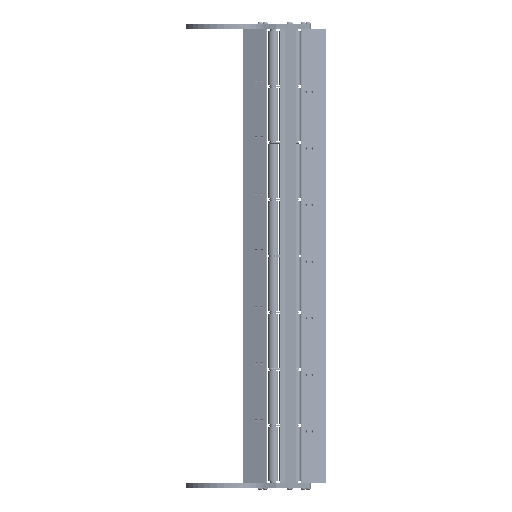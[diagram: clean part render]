
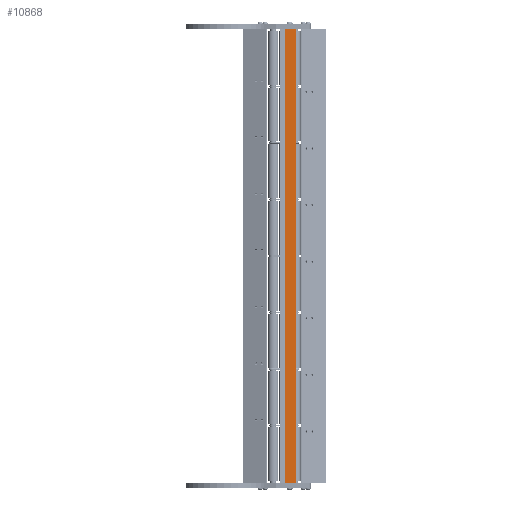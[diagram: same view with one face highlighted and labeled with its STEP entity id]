
A CAD part, front view. The second image highlights one B-rep face of the part: STEP entity #10868.
In plain terms, the highlighted planar face has unit normal (0.768, -0.641, 0) as drawn and (0, 1, 0) by its records, which use the part's own axes.
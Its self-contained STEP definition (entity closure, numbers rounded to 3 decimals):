
#152 = VECTOR ( 'NONE', #6279, 1000. ) ;
#375 = ORIENTED_EDGE ( 'NONE', *, *, #9838, .F. ) ;
#1154 = ORIENTED_EDGE ( 'NONE', *, *, #3316, .F. ) ;
#1424 = VECTOR ( 'NONE', #13970, 1000. ) ;
#1470 = CARTESIAN_POINT ( 'NONE',  ( 0., 13.9, 647. ) ) ;
#1789 = CARTESIAN_POINT ( 'NONE',  ( 25., 13.9, 647. ) ) ;
#1896 = CARTESIAN_POINT ( 'NONE',  ( 25., 13.9, 647. ) ) ;
#2079 = FACE_OUTER_BOUND ( 'NONE', #14863, .T. ) ;
#2768 = CARTESIAN_POINT ( 'NONE',  ( 25., 13.9, 647. ) ) ;
#3066 = CARTESIAN_POINT ( 'NONE',  ( 25., 13.9, 0. ) ) ;
#3070 = EDGE_CURVE ( 'NONE', #3101, #8769, #6050, .T. ) ;
#3101 = VERTEX_POINT ( 'NONE', #4562 ) ;
#3291 = CARTESIAN_POINT ( 'NONE',  ( 25., 13.9, 647. ) ) ;
#3316 = EDGE_CURVE ( 'NONE', #15627, #8429, #12818, .T. ) ;
#3466 = ORIENTED_EDGE ( 'NONE', *, *, #12279, .T. ) ;
#3747 = LINE ( 'NONE', #17927, #1424 ) ;
#4562 = CARTESIAN_POINT ( 'NONE',  ( 25., 13.9, 0. ) ) ;
#6050 = LINE ( 'NONE', #3066, #6758 ) ;
#6279 = DIRECTION ( 'NONE',  ( 0., 0., -1. ) ) ;
#6758 = VECTOR ( 'NONE', #16121, 1000. ) ;
#7596 = VECTOR ( 'NONE', #18194, 1000. ) ;
#7764 = DIRECTION ( 'NONE',  ( 0., -1., 0. ) ) ;
#8429 = VERTEX_POINT ( 'NONE', #1470 ) ;
#8477 = ORIENTED_EDGE ( 'NONE', *, *, #3070, .T. ) ;
#8769 = VERTEX_POINT ( 'NONE', #9522 ) ;
#9522 = CARTESIAN_POINT ( 'NONE',  ( 0., 13.9, 0. ) ) ;
#9838 = EDGE_CURVE ( 'NONE', #8429, #8769, #3747, .T. ) ;
#10868 = ADVANCED_FACE ( 'NONE', ( #2079 ), #17631, .F. ) ;
#12221 = AXIS2_PLACEMENT_3D ( 'NONE', #1789, #7764, #17425 ) ;
#12279 = EDGE_CURVE ( 'NONE', #15627, #3101, #16434, .T. ) ;
#12818 = LINE ( 'NONE', #2768, #7596 ) ;
#13970 = DIRECTION ( 'NONE',  ( 0., 0., -1. ) ) ;
#14863 = EDGE_LOOP ( 'NONE', ( #8477, #375, #1154, #3466 ) ) ;
#15627 = VERTEX_POINT ( 'NONE', #3291 ) ;
#16121 = DIRECTION ( 'NONE',  ( -1., 0., 0. ) ) ;
#16434 = LINE ( 'NONE', #1896, #152 ) ;
#17425 = DIRECTION ( 'NONE',  ( 1., 0., 0. ) ) ;
#17631 = PLANE ( 'NONE',  #12221 ) ;
#17927 = CARTESIAN_POINT ( 'NONE',  ( 0., 13.9, 647. ) ) ;
#18194 = DIRECTION ( 'NONE',  ( -1., 0., 0. ) ) ;
